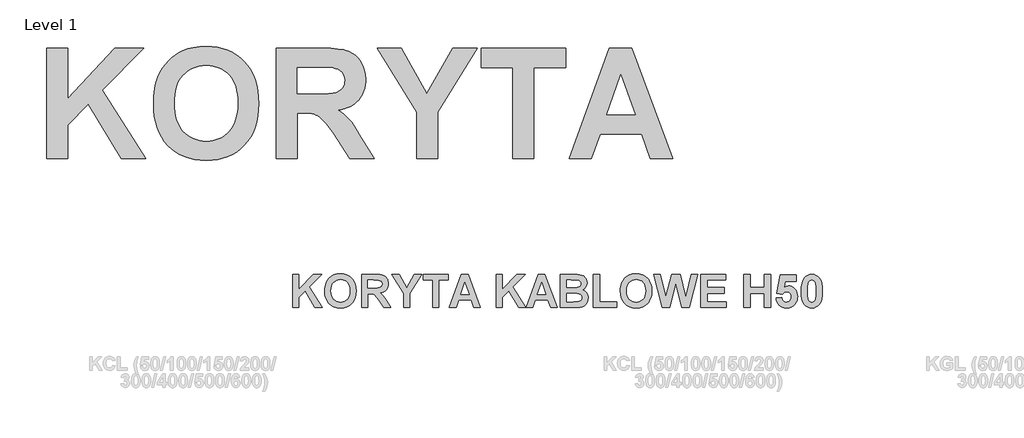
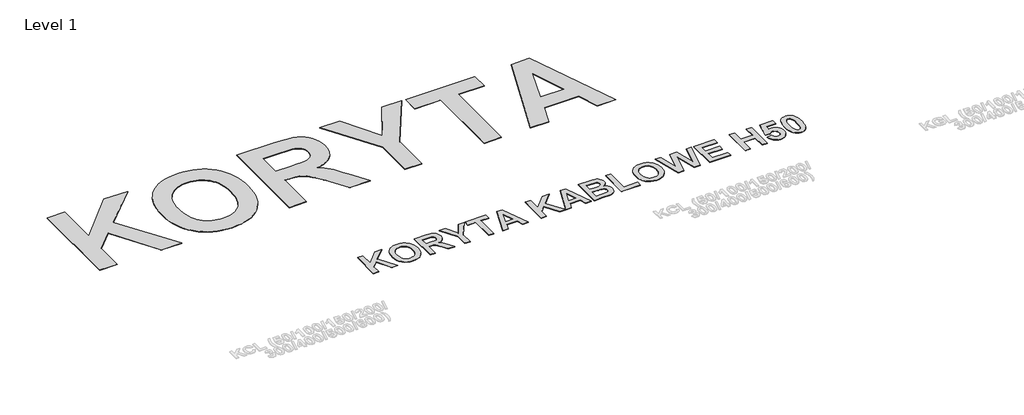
# One storey, part 24 of 42: 2 proxies.
"""IFC4 building model written with IfcOpenShell, lengths in millimetres."""

from ifc_helpers import new_model, si_unit, origin, origin_with_axes, place, context, project, spatial, polyline, outline, extrude, element, save

model = new_model("IFC4")

# Units and contexts
model_context = context("Model", 3, world=origin())
ifc_project = project(units=[si_unit("LENGTHUNIT", "METRE", prefix="MILLI")], contexts=[model_context])

# Site, building, storey
site = spatial("IfcSite", under=ifc_project)
building = spatial("IfcBuilding", under=site)
storey = spatial("IfcBuildingStorey", under=building, Name="Level 1", Elevation=0.0)

# Proxies
placement = place(None, origin())
element("IfcBuildingElementProxy", 1, Name="2000", ObjectType="2000", at=placement, inside=storey, context=model_context, shape_type="SweptSolid", body=[
    extrude(outline(polyline([(-33013.212713, 25183.7394627), (-33013.212713, 27224.2582626), (-32624.5424654, 27224.2582626), (-32624.5424654, 26294.0812898), (-31749.0222462, 27224.2582626), (-31215.6128178, 27224.2582626), (-31987.8925025, 26444.8934432), (-31183.2236305, 25183.7394627), (-31637.6844148, 25183.7394627), (-32240.4269473, 26189.3225121), (-32624.5424654, 25801.1583456), (-32624.5424654, 25183.7394627), (-33013.212713, 25183.7394627)])), origin_with_axes(), (0.0, 0.0, 1.0), 10.0),
    extrude(outline(polyline([(-31037.4722877, 26191.3468363), (-31031.7472458, 26340.7040067), (-31024.5909434, 26410.6855271), (-31014.5721201, 26477.535671), (-31001.6907758, 26541.2544384), (-30985.9469106, 26601.8418293), (-30967.3405245, 26659.2978437), (-30945.8716174, 26713.6224816), (-30908.5955849, 26789.3290439), (-30865.0884295, 26861.081848), (-30815.3501511, 26928.8808938), (-30759.3807498, 26992.7261815), (-30698.8882492, 27050.5933867), (-30635.5806726, 27100.4581853), (-30569.4580202, 27142.3205773), (-30500.520292, 27176.1805627), (-30403.2894699, 27211.3848258), (-30298.8469929, 27236.5307281), (-30187.1928609, 27251.6182694), (-30068.3270739, 27256.6474499), (-29960.3894747, 27252.2864546), (-29857.9871369, 27239.2034686), (-29761.1200606, 27217.3984921), (-29669.7882458, 27186.8715249), (-29583.9916926, 27147.6225671), (-29503.7304008, 27099.6516187), (-29429.0043705, 27042.9586796), (-29359.8136017, 26977.5437499), (-29297.5419099, 26904.3636391), (-29243.5731102, 26824.3751567), (-29197.9072028, 26737.5783026), (-29160.5441877, 26643.9730768), (-29131.4840648, 26543.5594794), (-29110.7268342, 26436.3375104), (-29098.2724958, 26322.3071697), (-29094.1210497, 26201.4684574), (-29098.2408657, 26081.4718955), (-29110.6003139, 25968.1967227), (-29131.1993942, 25861.6429388), (-29160.0381066, 25761.8105438), (-29197.1164512, 25668.6995379), (-29242.4344278, 25582.3099208), (-29295.9920366, 25502.6416928), (-29357.7892775, 25429.6948537), (-29426.4897803, 25364.4578432), (-29500.7571746, 25307.9191007), (-29580.5914605, 25260.0786263), (-29665.9926379, 25220.93642), (-29756.960707, 25190.4924817), (-29853.4956675, 25168.7468115), (-29955.5975197, 25155.6994094), (-30063.2662634, 25151.3502754), (-30172.1211346, 25155.6796406), (-30275.2509639, 25168.6677364), (-30372.6557513, 25190.3145626), (-30464.3354968, 25220.6201193), (-30550.2902004, 25259.5844065), (-30630.5198621, 25307.2074242), (-30705.0244819, 25363.4891724), (-30773.8040598, 25428.4296511), (-30835.6013007, 25500.9613456), (-30889.1589095, 25580.0167411), (-30934.4768862, 25665.5958377), (-30971.5552307, 25757.6986353), (-31000.3939431, 25856.325134), (-31020.9930234, 25961.4753337), (-31033.3524716, 26073.1492345), (-31037.4722877, 26191.3468363)]), holes=[polyline([(-30648.8020401, 26205.5171058), (-30646.220236, 26122.2114202), (-30638.4748236, 26044.1088804), (-30625.5658031, 25971.2094864), (-30607.4931742, 25903.5132383), (-30584.2569372, 25841.0201359), (-30555.857092, 25783.7301794), (-30522.2936385, 25731.6433686), (-30483.5665767, 25684.7597037), (-30440.8620343, 25643.2452425), (-30395.3661385, 25607.2660427), (-30347.0788894, 25576.8221044), (-30296.000287, 25551.9134277), (-30242.1303313, 25532.5400124), (-30185.4690223, 25518.7018587), (-30126.0163601, 25510.3989664), (-30063.7723445, 25507.6313357), (-30001.559959, 25510.3791976), (-29942.2021869, 25518.6227835), (-29885.6990282, 25532.3620933), (-29832.050483, 25551.597127), (-29781.2565512, 25576.3278847), (-29733.3172328, 25606.5543662), (-29688.2325279, 25642.2765717), (-29646.0024364, 25683.4945011), (-29607.7498257, 25730.2081544), (-29574.597563, 25782.4175316), (-29546.5456485, 25840.1226328), (-29523.5940821, 25903.3234579), (-29505.7428637, 25972.0200069), (-29492.9919935, 26046.2122798), (-29485.3414713, 26125.9002766), (-29482.7912973, 26211.0839974), (-29485.2742574, 26295.125082), (-29492.7231379, 26373.6625352), (-29505.1379387, 26446.6963569), (-29522.5186598, 26514.2265472), (-29544.8653013, 26576.2531061), (-29572.177863, 26632.7760336), (-29604.4563451, 26683.7953296), (-29641.7007475, 26729.3109942), (-29683.0570584, 26769.4021025), (-29727.6712661, 26804.1477297), (-29775.5433706, 26833.5478757), (-29826.6733718, 26857.6025407), (-29881.0612698, 26876.3117246), (-29938.7070646, 26889.6754274), (-29999.6107562, 26897.693649), (-30063.7723445, 26900.3663896), (-30127.9655629, 26897.662019), (-30188.9641446, 26889.5489071), (-30246.7680897, 26876.027054), (-30301.3773982, 26857.0964597), (-30352.79207, 26832.7571241), (-30401.0121052, 26803.0090473), (-30446.0375038, 26767.8522292), (-30487.8682657, 26727.2866699), (-30525.5871191, 26681.2728318), (-30558.276792, 26629.7711773), (-30585.9372845, 26572.7817064), (-30608.5685965, 26510.3044191), (-30626.1707281, 26442.3393154), (-30638.7436792, 26368.8863952), (-30646.2874499, 26289.9456587), (-30648.8020401, 26205.5171058)])]), origin_with_axes(), (0.0, 0.0, 1.0), 10.0),
    extrude(outline(polyline([(-28770.2291767, 25183.7394627), (-28770.2291767, 27224.2582626), (-27911.9157132, 27224.2582626), (-27761.0402997, 27220.8105854), (-27632.3059322, 27210.4675539), (-27525.7126107, 27193.2291681), (-27480.7188422, 27182.0242173), (-27441.2603353, 27169.095428), (-27405.4867309, 27153.9604415), (-27371.5476704, 27136.1368995), (-27339.4431537, 27115.6248019), (-27309.1731808, 27092.4241487), (-27280.7377517, 27066.5349399), (-27254.1368664, 27037.9571755), (-27206.4387273, 26972.73598), (-27167.9133073, 26899.5756379), (-27140.3951501, 26821.2912253), (-27123.8842558, 26737.882742), (-27118.3806244, 26649.350188), (-27120.3693647, 26592.9142432), (-27126.3355859, 26538.9928887), (-27136.2792878, 26487.5861244), (-27150.2004705, 26438.6939503), (-27168.0991339, 26392.3163664), (-27189.9752781, 26348.4533728), (-27215.8289031, 26307.1049694), (-27245.6600088, 26268.2711562), (-27279.4527803, 26232.4342917), (-27317.1914025, 26200.0767345), (-27358.8758753, 26171.1984845), (-27404.5061989, 26145.7995417), (-27454.0823731, 26123.8799062), (-27507.6043981, 26105.4395778), (-27565.0722738, 26090.4785568), (-27626.4860001, 26078.9968429), (-27567.4326674, 26039.3327405), (-27513.7564459, 25997.7708341), (-27465.4573355, 25954.3111238), (-27422.5353363, 25908.9536096), (-27378.8225855, 25853.6326246), (-27328.1512202, 25780.2825022), (-27270.5212405, 25688.9032423), (-27205.9326463, 25579.494845), (-26956.4346879, 25183.7394627), (-27410.3893911, 25183.7394627), (-27705.9407252, 25649.8401112), (-27848.7188419, 25828.803023), (-27900.0386235, 25887.7772806), (-27937.9788874, 25926.4134058), (-27969.7038433, 25952.6505454), (-28002.3777012, 25974.4278456), (-28036.000461, 25991.7453066), (-28070.5721229, 26004.6029283), (-28110.7264913, 26013.9021676), (-28161.097371, 26020.5444814), (-28292.488664, 26025.8583325), (-28381.5589291, 26025.8583325), (-28381.5589291, 25183.7394627), (-28770.2291767, 25183.7394627)]), holes=[polyline([(-28381.5589291, 26382.1393928), (-28061.2096234, 26382.1393928), (-27920.1869754, 26383.6101908), (-27808.358878, 26388.022585), (-27725.7253313, 26395.3765753), (-27672.2863353, 26405.6721617), (-27635.563829, 26419.5577605), (-27603.0797515, 26437.6817882), (-27574.8341028, 26460.0442447), (-27550.8268829, 26486.6451299), (-27531.6748781, 26517.1523283), (-27517.9948747, 26551.2337241), (-27509.7868726, 26588.8893174), (-27507.050872, 26630.119108), (-27510.6566995, 26676.1250386), (-27521.4741819, 26717.4813496), (-27539.5033194, 26754.1880408), (-27564.7441118, 26786.2451125), (-27596.563958, 26813.2413736), (-27634.3302564, 26834.7656333), (-27678.0430073, 26850.8178916), (-27727.7022104, 26861.3981486), (-27832.9670692, 26866.3324389), (-28043.4967866, 26867.9772023), (-28381.5589291, 26867.9772023), (-28381.5589291, 26382.1393928)])]), origin_with_axes(), (0.0, 0.0, 1.0), 10.0),
    extrude(outline(polyline([(-26179.0941927, 25183.7394627), (-26179.0941927, 26042.5590072), (-26907.8509069, 27224.2582626), (-26457.438771, 27224.2582626), (-25985.771231, 26385.6819601), (-25512.0793667, 27224.2582626), (-25061.6672308, 27224.2582626), (-25790.423945, 26039.5225209), (-25790.423945, 25183.7394627), (-26179.0941927, 25183.7394627)])), origin_with_axes(), (0.0, 0.0, 1.0), 10.0),
    extrude(outline(polyline([(-24397.6888911, 25183.7394627), (-24397.6888911, 26867.9772023), (-24980.6942625, 26867.9772023), (-24980.6942625, 27224.2582626), (-23426.0132721, 27224.2582626), (-23426.0132721, 26867.9772023), (-24009.0186435, 26867.9772023), (-24009.0186435, 25183.7394627), (-24397.6888911, 25183.7394627)])), origin_with_axes(), (0.0, 0.0, 1.0), 10.0),
    extrude(outline(polyline([(-21450.2728468, 25183.7394627), (-21858.6802554, 25183.7394627), (-22018.6018677, 25637.1880849), (-22789.3633093, 25637.1880849), (-22947.2605974, 25183.7394627), (-23361.2348975, 25183.7394627), (-22616.2835896, 27224.2582626), (-22202.3092894, 27224.2582626), (-21450.2728468, 25183.7394627)]), holes=[polyline([(-22143.0978064, 25993.4691452), (-22405.7538722, 26738.4204531), (-22664.8673706, 25993.4691452), (-22143.0978064, 25993.4691452)])]), origin_with_axes(), (0.0, 0.0, 1.0), 10.0),
])
element("IfcBuildingElementProxy", 2, Name="600mm Arial", ObjectType="600mm Arial", at=placement, inside=storey, context=model_context, shape_type="SweptSolid", body=[
    extrude(outline(polyline([(-28468.0652628, 22430.419586), (-28468.0652628, 23042.575226), (-28351.4641885, 23042.575226), (-28351.4641885, 22763.5221341), (-28088.8081227, 23042.575226), (-27928.7852942, 23042.575226), (-28160.4691996, 22808.7657801), (-27919.068538, 22430.419586), (-28055.4067733, 22430.419586), (-28236.2295331, 22732.0945008), (-28351.4641885, 22615.6452509), (-28351.4641885, 22430.419586), (-28468.0652628, 22430.419586)])), origin_with_axes(), (0.0, 0.0, 1.0), 10.0),
    extrude(outline(polyline([(-27875.3431352, 22732.7017981), (-27873.6256226, 22777.5089492), (-27868.4730849, 22818.5584485), (-27859.8855221, 22855.850296), (-27847.8629341, 22889.3844917), (-27823.6279777, 22933.6223016), (-27791.9156738, 22973.1156016), (-27754.7756507, 23005.4352028), (-27714.2575365, 23028.151916), (-27685.0882899, 23038.7131949), (-27653.7555468, 23046.2569656), (-27620.2593072, 23050.783228), (-27584.5995711, 23052.2919822), (-27521.4975899, 23047.0587878), (-27465.0379226, 23031.3592047), (-27415.2205691, 23005.1932328), (-27372.0455294, 22968.5608722), (-27353.3640218, 22946.6068389), (-27337.1733819, 22922.6102942), (-27312.2647052, 22868.4896702), (-27297.3194991, 22806.1990003), (-27292.3377638, 22735.7382844), (-27297.2815431, 22665.756764), (-27312.1128809, 22603.8409103), (-27336.8317772, 22549.9907234), (-27352.8990599, 22526.090255), (-27371.4382321, 22504.2062033), (-27414.3286013, 22467.6734774), (-27463.8992403, 22441.5786732), (-27520.1501491, 22425.9217906), (-27583.0813279, 22420.7028298), (-27646.676738, 22425.8980681), (-27703.4020979, 22441.483783), (-27753.2574075, 22467.4599745), (-27796.2426668, 22503.8266425), (-27830.8491217, 22549.3027695), (-27855.5680181, 22602.6073378), (-27870.3993559, 22663.7403473), (-27875.3431352, 22732.7017981)]), holes=[polyline([(-27758.7420609, 22736.9528789), (-27755.643896, 22688.5304113), (-27746.3494012, 22646.3517187), (-27730.8585765, 22610.416801), (-27709.1714219, 22580.7256583), (-27682.7112904, 22557.47756), (-27652.901535, 22540.8717755), (-27619.7421556, 22530.9083048), (-27583.2331522, 22527.5871479), (-27546.7621049, 22530.8845822), (-27513.7165938, 22540.7768853), (-27484.0966187, 22557.2640571), (-27457.9021798, 22580.3460975), (-27436.4807178, 22610.0230067), (-27421.1796735, 22646.2947845), (-27411.9990469, 22689.1614311), (-27408.9388381, 22738.6229464), (-27411.9183903, 22787.3965077), (-27420.8570468, 22829.5657114), (-27435.7548078, 22865.1305573), (-27456.6116731, 22894.0910454), (-27482.4028287, 22916.5420661), (-27512.1034604, 22932.5785094), (-27545.7135683, 22942.2003754), (-27583.2331522, 22945.4076641), (-27620.7906923, 22942.1624193), (-27654.5146683, 22932.4266851), (-27684.4050804, 22916.2004614), (-27710.4619286, 22893.4837482), (-27731.5844865, 22864.2291004), (-27746.6720278, 22828.3890729), (-27755.7245526, 22785.9636658), (-27758.7420609, 22736.9528789)])]), origin_with_axes(), (0.0, 0.0, 1.0), 10.0),
    extrude(outline(polyline([(-27195.1702019, 22430.419586), (-27195.1702019, 23042.575226), (-26937.6761628, 23042.575226), (-26853.7932285, 23038.4380134), (-26821.8152321, 23033.2664976), (-26796.4795495, 23026.0263756), (-26775.56575, 23016.138817), (-26756.8534031, 23003.0249918), (-26740.3425088, 22986.6848998), (-26726.0330671, 22967.1185412), (-26714.4754411, 22945.1704386), (-26706.2199939, 22921.6851148), (-26701.2667256, 22896.6625698), (-26699.6156362, 22870.1028036), (-26702.0021246, 22836.9956138), (-26709.16159, 22806.9059323), (-26721.0940323, 22779.833759), (-26737.7994515, 22755.779094), (-26759.2588696, 22735.3207675), (-26785.4533085, 22719.0376097), (-26816.3827683, 22706.9296205), (-26852.0472489, 22698.9968001), (-26818.2283826, 22674.6289974), (-26790.8620498, 22647.9838301), (-26762.546815, 22609.3824978), (-26725.8812428, 22549.1462007), (-26651.0318552, 22430.419586), (-26787.2182662, 22430.419586), (-26875.8836664, 22570.2497805), (-26918.7171015, 22623.9386541), (-26945.4951151, 22653.2217689), (-26964.8147592, 22667.6261009), (-26985.2730857, 22676.6786257), (-27012.4306602, 22681.4610916), (-27051.8480481, 22683.0552469), (-27078.5691276, 22683.0552469), (-27078.5691276, 22430.419586), (-27195.1702019, 22430.419586)]), holes=[polyline([(-27078.5691276, 22789.939565), (-26982.4643359, 22789.939565), (-26906.6091123, 22791.7045227), (-26865.7873495, 22796.9993957), (-26845.0253743, 22806.6022836), (-26829.3495138, 22821.2912862), (-26819.4999113, 22840.6678644), (-26816.2167105, 22864.3334796), (-26820.5437035, 22890.5421521), (-26833.5246824, 22911.1712809), (-26854.4005258, 22925.7274372), (-26882.412112, 22933.7171918), (-26977.1504849, 22935.6909079), (-27078.5691276, 22935.6909079), (-27078.5691276, 22789.939565)])]), origin_with_axes(), (0.0, 0.0, 1.0), 10.0),
    extrude(outline(polyline([(-26417.8297067, 22430.419586), (-26417.8297067, 22688.0654493), (-26636.456721, 23042.575226), (-26501.3330802, 23042.575226), (-26359.8328182, 22791.0023352), (-26217.7252589, 23042.575226), (-26082.6016181, 23042.575226), (-26301.2286324, 22687.1545034), (-26301.2286324, 22430.419586), (-26417.8297067, 22430.419586)])), origin_with_axes(), (0.0, 0.0, 1.0), 10.0),
    extrude(outline(polyline([(-25883.4081162, 22430.419586), (-25883.4081162, 22935.6909079), (-26058.3097276, 22935.6909079), (-26058.3097276, 23042.575226), (-25591.9054305, 23042.575226), (-25591.9054305, 22935.6909079), (-25766.8070419, 22935.6909079), (-25766.8070419, 22430.419586), (-25883.4081162, 22430.419586)])), origin_with_axes(), (0.0, 0.0, 1.0), 10.0),
    extrude(outline(polyline([(-24999.1833029, 22430.419586), (-25121.7055255, 22430.419586), (-25169.6820092, 22566.4541726), (-25400.9104417, 22566.4541726), (-25448.2796281, 22430.419586), (-25572.4719181, 22430.419586), (-25348.9865258, 23042.575226), (-25224.7942357, 23042.575226), (-24999.1833029, 22430.419586)]), holes=[polyline([(-25207.0307908, 22673.3384907), (-25285.8276105, 22896.8238831), (-25363.5616601, 22673.3384907), (-25207.0307908, 22673.3384907)])]), origin_with_axes(), (0.0, 0.0, 1.0), 10.0),
    extrude(outline(polyline([(-24707.6806172, 22430.419586), (-24707.6806172, 23042.575226), (-24591.0795429, 23042.575226), (-24591.0795429, 22763.5221341), (-24328.4234772, 23042.575226), (-24168.4006487, 23042.575226), (-24400.0845541, 22808.7657801), (-24158.6838925, 22430.419586), (-24295.0221278, 22430.419586), (-24475.8448875, 22732.0945008), (-24591.0795429, 22615.6452509), (-24591.0795429, 22430.419586), (-24707.6806172, 22430.419586)])), origin_with_axes(), (0.0, 0.0, 1.0), 10.0),
    extrude(outline(polyline([(-23580.5368992, 22430.419586), (-23703.0591218, 22430.419586), (-23751.0356054, 22566.4541726), (-23982.2640379, 22566.4541726), (-24029.6332243, 22430.419586), (-24153.8255144, 22430.419586), (-23930.340122, 23042.575226), (-23806.147832, 23042.575226), (-23580.5368992, 22430.419586)]), holes=[polyline([(-23788.3843871, 22673.3384907), (-23867.1812068, 22896.8238831), (-23944.9152563, 22673.3384907), (-23788.3843871, 22673.3384907)])]), origin_with_axes(), (0.0, 0.0, 1.0), 10.0),
    extrude(outline(polyline([(-23522.236362, 23042.575226), (-23270.9671199, 23042.575226), (-23205.8914227, 23041.0569828), (-23159.7558089, 23036.5022533), (-23125.0259967, 23027.1081238), (-23094.1677046, 23011.0716805), (-23067.6553835, 22988.5257697), (-23045.9634844, 22959.6032376), (-23031.5022184, 22925.5376568), (-23026.6817963, 22887.5625999), (-23032.4321423, 22846.1904739), (-23049.6831801, 22808.3103072), (-23076.8027985, 22776.6928935), (-23112.158886, 22754.1090266), (-23088.3414465, 22744.5630727), (-23067.446625, 22732.170413), (-23049.4744217, 22716.9310473), (-23034.4248364, 22698.8449757), (-23022.5350947, 22678.4720504), (-23014.0424221, 22656.3721235), (-23008.9468185, 22632.545195), (-23007.248284, 22606.9912649), (-23012.1256401, 22565.9797217), (-23026.7577085, 22526.1448169), (-23049.8350045, 22490.8456635), (-23080.0480432, 22463.4413746), (-23117.7574076, 22444.4823132), (-23163.3236803, 22434.5188425), (-23313.0224553, 22430.419586), (-23522.236362, 22430.419586), (-23522.236362, 23042.575226)]), holes=[polyline([(-23405.6352878, 22692.7720031), (-23405.6352878, 22537.3039041), (-23282.3539436, 22537.3039041), (-23190.9557057, 22540.9476876), (-23163.9689336, 22549.0892666), (-23142.523749, 22564.1008958), (-23128.5179559, 22585.6789266), (-23123.8493582, 22613.5197104), (-23127.4551857, 22637.6597766), (-23138.2726682, 22657.8524106), (-23155.8842888, 22673.6041833), (-23179.8725307, 22684.4216658), (-23222.9906362, 22690.6844188), (-23297.9918481, 22692.7720031), (-23405.6352878, 22692.7720031)]), polyline([(-23405.6352878, 22935.6909079), (-23405.6352878, 22799.6563212), (-23316.6662389, 22799.6563212), (-23217.9804338, 22801.6300373), (-23186.9133833, 22808.7278241), (-23163.2477681, 22822.7336172), (-23148.274095, 22842.9642072), (-23143.2828706, 22868.7363847), (-23147.5908856, 22893.388858), (-23160.5149304, 22912.9931727), (-23181.9031809, 22926.7142952), (-23211.6038126, 22933.7171918), (-23327.5975896, 22935.6909079), (-23405.6352878, 22935.6909079)])]), origin_with_axes(), (0.0, 0.0, 1.0), 10.0),
    extrude(outline(polyline([(-22910.0807221, 22430.419586), (-22910.0807221, 23042.575226), (-22793.4796478, 23042.575226), (-22793.4796478, 22537.3039041), (-22482.5434497, 22537.3039041), (-22482.5434497, 22430.419586), (-22910.0807221, 22430.419586)])), origin_with_axes(), (0.0, 0.0, 1.0), 10.0),
    extrude(outline(polyline([(-22414.5261564, 22732.7017981), (-22412.8086438, 22777.5089492), (-22407.6561061, 22818.5584485), (-22399.0685433, 22855.850296), (-22387.0459553, 22889.3844917), (-22362.8109989, 22933.6223016), (-22331.098695, 22973.1156016), (-22293.9586718, 23005.4352028), (-22253.4405577, 23028.151916), (-22224.271311, 23038.7131949), (-22192.9385679, 23046.2569656), (-22159.4423283, 23050.783228), (-22123.7825922, 23052.2919822), (-22060.6806111, 23047.0587878), (-22004.2209438, 23031.3592047), (-21954.4035903, 23005.1932328), (-21911.2285506, 22968.5608722), (-21892.547043, 22946.6068389), (-21876.3564031, 22922.6102942), (-21851.4477264, 22868.4896702), (-21836.5025203, 22806.1990003), (-21831.520785, 22735.7382844), (-21836.4645642, 22665.756764), (-21851.2959021, 22603.8409103), (-21876.0147984, 22549.9907234), (-21892.0820811, 22526.090255), (-21910.6212533, 22504.2062033), (-21953.5116224, 22467.6734774), (-22003.0822614, 22441.5786732), (-22059.3331703, 22425.9217906), (-22122.2643491, 22420.7028298), (-22185.8597592, 22425.8980681), (-22242.5851191, 22441.483783), (-22292.4404287, 22467.4599745), (-22335.425688, 22503.8266425), (-22370.0321429, 22549.3027695), (-22394.7510393, 22602.6073378), (-22409.5823771, 22663.7403473), (-22414.5261564, 22732.7017981)]), holes=[polyline([(-22297.9250821, 22736.9528789), (-22294.8269172, 22688.5304113), (-22285.5324223, 22646.3517187), (-22270.0415977, 22610.416801), (-22248.3544431, 22580.7256583), (-22221.8943116, 22557.47756), (-22192.0845562, 22540.8717755), (-22158.9251768, 22530.9083048), (-22122.4161734, 22527.5871479), (-22085.9451261, 22530.8845822), (-22052.899615, 22540.7768853), (-22023.2796399, 22557.2640571), (-21997.085201, 22580.3460975), (-21975.663739, 22610.0230067), (-21960.3626947, 22646.2947845), (-21951.1820681, 22689.1614311), (-21948.1218592, 22738.6229464), (-21951.1014114, 22787.3965077), (-21960.040068, 22829.5657114), (-21974.937829, 22865.1305573), (-21995.7946943, 22894.0910454), (-22021.5858499, 22916.5420661), (-22051.2864816, 22932.5785094), (-22084.8965894, 22942.2003754), (-22122.4161734, 22945.4076641), (-22159.9737134, 22942.1624193), (-22193.6976895, 22932.4266851), (-22223.5881016, 22916.2004614), (-22249.6449498, 22893.4837482), (-22270.7675077, 22864.2291004), (-22285.855049, 22828.3890729), (-22294.9075738, 22785.9636658), (-22297.9250821, 22736.9528789)])]), origin_with_axes(), (0.0, 0.0, 1.0), 10.0),
    extrude(outline(polyline([(-21638.55208, 22430.419586), (-21792.6537602, 23042.575226), (-21673.0161996, 23042.575226), (-21574.0267459, 22622.0218721), (-21467.5979008, 23042.575226), (-21310.7633829, 23042.575226), (-21204.7900107, 22615.0379536), (-21105.800557, 23042.575226), (-20986.1629964, 23042.575226), (-21137.9873119, 22430.419586), (-21275.9956147, 22430.419586), (-21389.4083783, 22888.0180728), (-21505.0985067, 22430.419586), (-21638.55208, 22430.419586)])), origin_with_axes(), (0.0, 0.0, 1.0), 10.0),
    extrude(outline(polyline([(-20927.8624593, 22430.419586), (-20927.8624593, 23042.575226), (-20471.1749184, 23042.575226), (-20471.1749184, 22935.6909079), (-20811.261385, 22935.6909079), (-20811.261385, 22799.6563212), (-20490.6084307, 22799.6563212), (-20490.6084307, 22692.7720031), (-20811.261385, 22692.7720031), (-20811.261385, 22537.3039041), (-20461.4581622, 22537.3039041), (-20461.4581622, 22430.419586), (-20927.8624593, 22430.419586)])), origin_with_axes(), (0.0, 0.0, 1.0), 10.0),
    extrude(outline(polyline([(-20131.0884517, 22430.419586), (-20131.0884517, 23042.575226), (-20014.4873774, 23042.575226), (-20014.4873774, 22799.6563212), (-19752.1349603, 22799.6563212), (-19752.1349603, 23042.575226), (-19635.533886, 23042.575226), (-19635.533886, 22430.419586), (-19752.1349603, 22430.419586), (-19752.1349603, 22692.7720031), (-20014.4873774, 22692.7720031), (-20014.4873774, 22430.419586), (-20131.0884517, 22430.419586)])), origin_with_axes(), (0.0, 0.0, 1.0), 10.0),
    extrude(outline(polyline([(-19538.3663241, 22602.740184), (-19431.482006, 22615.0379536), (-19421.5375134, 22578.8658104), (-19412.8645493, 22563.9395824), (-19401.7244402, 22551.1199168), (-19375.0792728, 22533.4703401), (-19344.6384976, 22527.5871479), (-19326.8987752, 22529.1480916), (-19310.5729168, 22533.8309229), (-19295.6609223, 22541.6356416), (-19282.1627918, 22552.5622478), (-19270.970493, 22566.6297195), (-19262.9759939, 22583.8570348), (-19258.1792944, 22604.2441937), (-19256.5803946, 22627.7911961), (-19258.0654262, 22649.8531669), (-19262.5205209, 22668.9735417), (-19269.9456789, 22685.1523203), (-19280.3409, 22698.3895028), (-19293.117865, 22708.6850892), (-19307.6882548, 22716.0390795), (-19324.0520693, 22720.4514736), (-19342.2093085, 22721.9222717), (-19365.4194508, 22718.8857854), (-19387.3770424, 22709.7763265), (-19408.0820834, 22694.5938949), (-19427.5345738, 22673.3384907), (-19528.6495679, 22688.369098), (-19460.6322746, 23032.8584698), (-19169.1295889, 23032.8584698), (-19169.1295889, 22916.2573955), (-19366.3493747, 22916.2573955), (-19389.8821436, 22804.9701723), (-19352.7231424, 22822.8474854), (-19314.7291074, 22828.8065898), (-19279.6007564, 22825.3573311), (-19247.2431992, 22815.0095551), (-19217.6564357, 22797.7632618), (-19190.840466, 22773.6184511), (-19168.5887148, 22743.970009), (-19152.6946067, 22710.2128214), (-19143.1581419, 22672.3468882), (-19139.9793203, 22630.3722095), (-19142.6267568, 22594.6840063), (-19150.5690663, 22560.9505412), (-19163.8062488, 22529.1718142), (-19182.3383043, 22499.3478252), (-19214.0600972, 22464.9406397), (-19251.3804118, 22440.3640787), (-19294.299248, 22425.618142), (-19342.8166058, 22420.7028298), (-19381.9161115, 22423.7867612), (-19417.2294984, 22433.0385554), (-19448.7567664, 22448.4582125), (-19476.4979156, 22470.0457323), (-19499.7507584, 22496.842724), (-19517.8131074, 22527.8907965), (-19530.6849626, 22563.1899499), (-19538.3663241, 22602.740184)])), origin_with_axes(), (0.0, 0.0, 1.0), 10.0),
    extrude(outline(polyline([(-18877.6269032, 23042.575226), (-18836.5109808, 23038.6277938), (-18800.1585462, 23026.7854972), (-18768.5695996, 23007.0483361), (-18741.7441408, 22979.4163107), (-18716.1712327, 22935.9091553), (-18697.9048697, 22880.0852523), (-18686.945052, 22811.9446017), (-18683.2917794, 22731.4872036), (-18686.96403, 22651.1057175), (-18697.9807819, 22582.8891548), (-18716.3420351, 22526.8375153), (-18742.0477895, 22482.9507991), (-18768.7404019, 22455.7173126), (-18800.2344584, 22436.2648221), (-18836.5299588, 22424.5933279), (-18877.6269032, 22420.7028298), (-18919.165087, 22424.9728887), (-18956.480657, 22437.7830653), (-18989.5736133, 22459.1333597), (-19018.4439558, 22489.0237718), (-19041.8581119, 22529.8740016), (-19058.5825092, 22584.1037493), (-19068.6171475, 22651.7130148), (-19071.962027, 22732.7017981), (-19068.2897764, 22812.6847453), (-19057.2730245, 22880.6166374), (-19038.9117713, 22936.4974745), (-19013.2060169, 22980.3272566), (-18986.5134044, 23007.5607432), (-18955.019348, 23027.0132336), (-18918.7238476, 23038.6847279), (-18877.6269032, 23042.575226)]), holes=[polyline([(-18877.6269032, 22935.6909079), (-18898.1990979, 22932.4836192), (-18916.4939279, 22922.8617532), (-18931.6763595, 22904.9275059), (-18942.9113588, 22876.7830735), (-18952.2485542, 22818.824141), (-18955.3609527, 22731.4872036), (-18952.5901589, 22645.3079265), (-18944.2777777, 22591.1256239), (-18931.7332936, 22559.3184298), (-18916.2661915, 22540.2644782), (-18898.1421638, 22530.7564805), (-18877.6269032, 22527.5871479), (-18857.0547084, 22530.7944366), (-18838.7598784, 22540.4163025), (-18823.5774469, 22558.3505498), (-18812.3424475, 22586.4949823), (-18803.0052521, 22644.1502661), (-18799.8928537, 22731.4872036), (-18802.6636474, 22817.5715904), (-18810.9760287, 22871.7728711), (-18823.5205128, 22903.6749553), (-18838.9876149, 22922.8617532), (-18857.1116426, 22932.4836192), (-18877.6269032, 22935.6909079)])]), origin_with_axes(), (0.0, 0.0, 1.0), 10.0),
])

save(model, "model.ifc")
